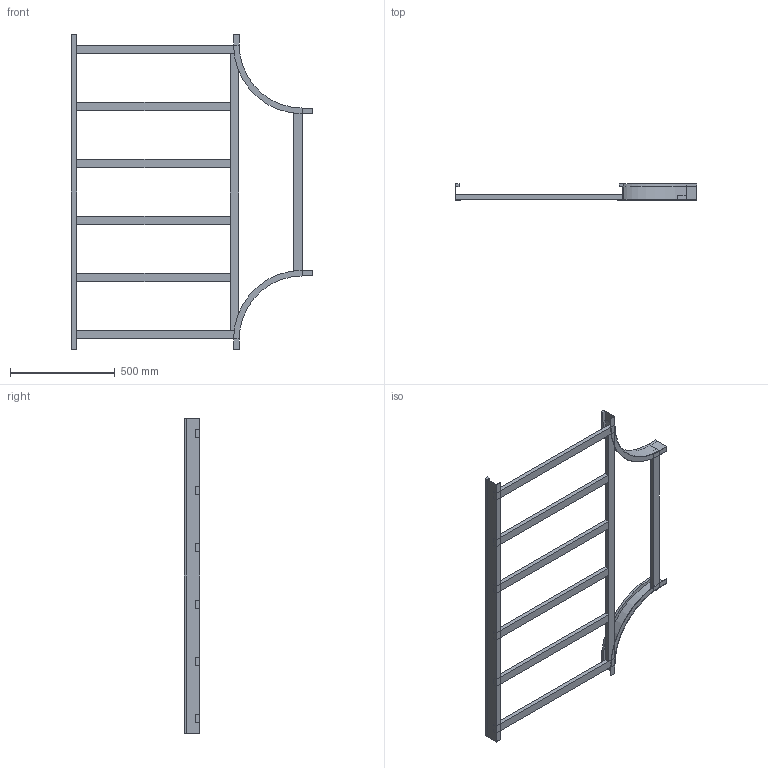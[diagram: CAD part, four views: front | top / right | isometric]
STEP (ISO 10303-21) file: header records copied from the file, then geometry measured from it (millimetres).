
FILE_DESCRIPTION (( 'STEP AP214' ), '1' );
FILE_NAME ('B2_15B3C800.step', '2025-02-21T15:54:01', ( '' ), ( '' ), 'SwSTEP 2.0', 'SolidWorks 2023', '' );
FILE_SCHEMA (( 'AUTOMOTIVE_DESIGN' ));
Length unit declared in the file: millimetre
Products named in the file (6): B2_LONGH.INTERNO 90°_H75_R300; TRAVERSINO_INTERMEDIO_R300+800; B2_LONGH.RETT_H75_R300+800; TRAVERSINO_800; B2_TRAVERSINO_LONG._R300+800; B2_15B3C800
Assembly tree (11 placements, depth 2):
  B2_15B3C800
    B2_LONGH.INTERNO 90°_H75_R300  x2
    B2_LONGH.RETT_H75_R300+800
    TRAVERSINO_800  x3
    B2_TRAVERSINO_LONG._R300+800
    TRAVERSINO_INTERMEDIO_R300+800  x4
Bounding box: 1150 x 75 x 1500 mm (x, y, z)
Volume: 6495122 mm3; surface area: 1457672.8 mm2
Topology: 11 solids, 11 shells, 110 faces, 232 edges, 144 vertices
Faces by surface type: plane 102, cylinder 8
Entity records: 1655 total; most frequent: DIRECTION 260, CARTESIAN_POINT 256, ORIENTED_EDGE 232, EDGE_CURVE 116, VECTOR 108, LINE 108, AXIS2_PLACEMENT_3D 76, VERTEX_POINT 72
